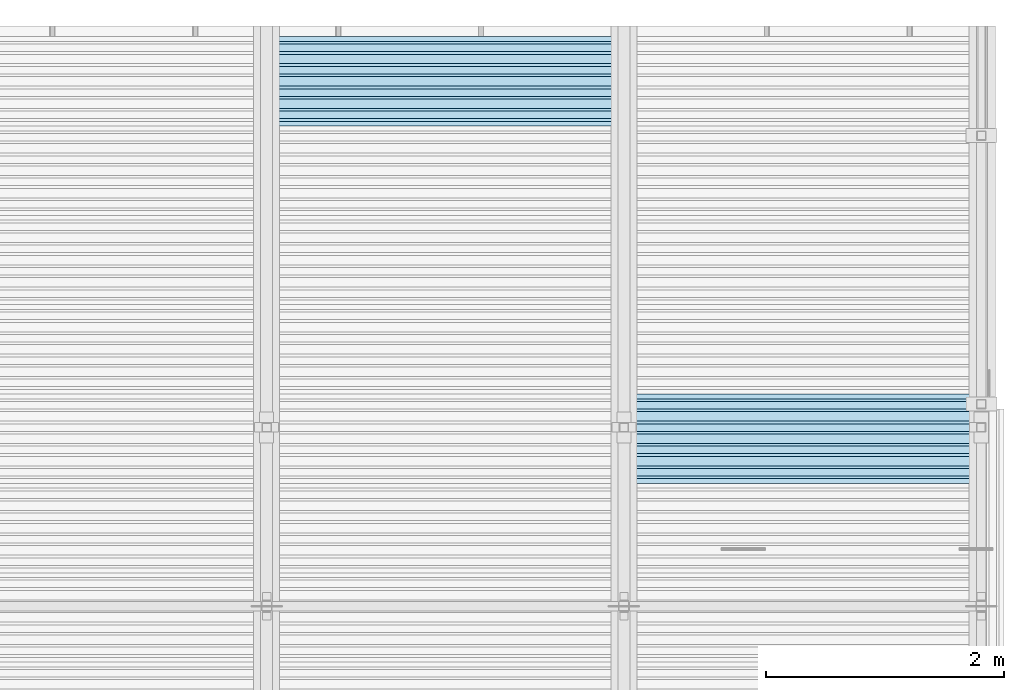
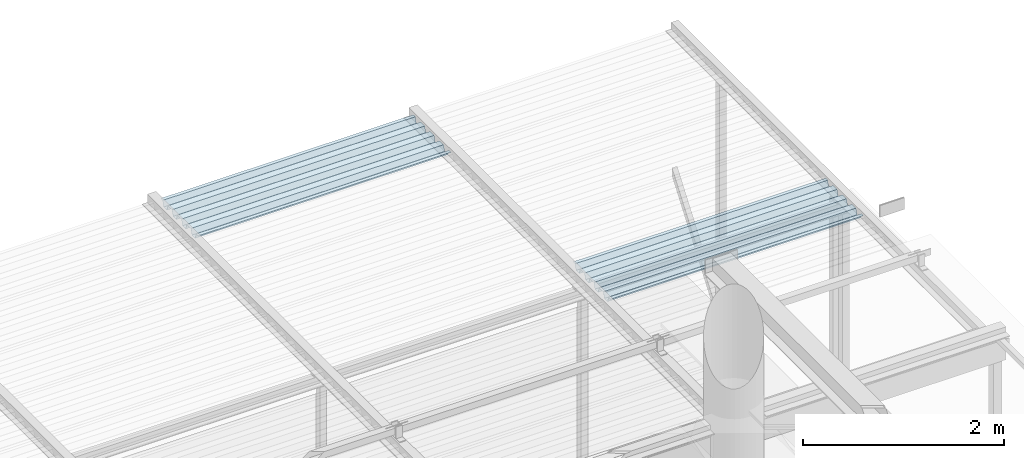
# One storey, part 95 of 98: 2 slabs.
"""IFC2X3 building model written with IfcOpenShell, lengths in millimetres."""

from ifc_helpers import new_model, entity, si_unit, converted_unit, derived_unit, direction, frame, origin_with_axes, place, context, subcontext, project, spatial, faceted_brep, material, type_object, element, save


model = new_model("IFC2X3")

# Units and contexts
model_context = context("Model", 3, precision=0.01, world=frame((0.0, 4.29681676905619e-09, 0.0)), true_north=direction((4.01073788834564e-13, 1.0)))
plan_context = context("Plan", 3, precision=0.01, world=frame((0.0, 4.29681676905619e-09, 0.0)), true_north=direction((4.01073788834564e-13, 1.0)))
body_context = subcontext(model_context, "Body", "Model", "MODEL_VIEW")
ifc_project = project(units=[converted_unit("PLANEANGLEUNIT", "DEGREE", entity("IfcPositiveLengthMeasure", 0.0174532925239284), si_unit("PLANEANGLEUNIT", "RADIAN"), dimensions=[0, 0, 0, 0, 0, 0, 0]), si_unit("AREAUNIT", "SQUARE_METRE"), si_unit("LENGTHUNIT", "METRE", prefix="MILLI"), si_unit("MASSUNIT", "GRAM", prefix="KILO"), si_unit("POWERUNIT", "WATT"), si_unit("PRESSUREUNIT", "PASCAL"), si_unit("FORCEUNIT", "NEWTON", prefix="KILO"), si_unit("ELECTRICCURRENTUNIT", "AMPERE"), si_unit("THERMODYNAMICTEMPERATUREUNIT", "DEGREE_CELSIUS"), si_unit("TIMEUNIT", "SECOND"), si_unit("VOLUMEUNIT", "CUBIC_METRE"), derived_unit("LINEARVELOCITYUNIT", [(si_unit("LENGTHUNIT", "METRE"), 1), (si_unit("TIMEUNIT", "SECOND"), -1)]), derived_unit("VOLUMETRICFLOWRATEUNIT", [(si_unit("VOLUMEUNIT", "CUBIC_METRE"), 1), (si_unit("TIMEUNIT", "SECOND"), -1)]), derived_unit("THERMALTRANSMITTANCEUNIT", [(si_unit("POWERUNIT", "WATT"), 1), (si_unit("THERMODYNAMICTEMPERATUREUNIT", "KELVIN"), -1), (si_unit("AREAUNIT", "SQUARE_METRE"), -1)])], contexts=[model_context, plan_context])

# Site, building, storey
site_placement = place(None, frame((0.0, -4.29681676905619e-09, 0.0), z_axis=(0.0, 0.0, 1.0), x_axis=(1.0, 0.0, 0.0)))
site = spatial("IfcSite", under=ifc_project, at=site_placement, Name="Gardermoen", CompositionType="ELEMENT")
building_placement = place(site_placement, frame((0.0, 4.29681676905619e-09, 0.0), z_axis=(0.0, 0.0, 1.0), x_axis=(1.0, 0.0, 0.0)))
building = spatial("IfcBuilding", under=site, at=building_placement, Name="TS", CompositionType="ELEMENT")
storey_placement = place(building_placement, origin_with_axes())
storey = spatial("IfcBuildingStorey", under=building, at=storey_placement, Name="D", CompositionType="ELEMENT", Elevation=0.0)

# Slabs
ifc_material = material(Name="STEEL/S355")
slab_type = type_object("IfcSlabType", Name="PLANJA70", PredefinedType="NOTDEFINED")
slab_1_placement = place(storey_placement, frame((528950.000000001, 420404.996695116, 206958.849718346), z_axis=(0.0, 0.0, 1.0), x_axis=(-0.999999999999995, -9.99999902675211e-08, 0.0)))
element("IfcSlab", 1, at=slab_1_placement, inside=storey, type_object=slab_type, material=ifc_material, Name="STÅLTAK", ObjectType="PLANJA70", PredefinedType="FLOOR", context=body_context, shape_type="Brep", body=[
    faceted_brep([(0.0, 375.0, 34.1500015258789), (0.0, 335.299987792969, 34.1500015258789), (2900.00079747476, 335.299987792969, 34.1500015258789), (2900.00079747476, 375.0, 34.1500015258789), (0.0, 313.010681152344, -32.1500015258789), (2900.00079747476, 313.010681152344, -32.1500015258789), (0.0, 249.489303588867, -32.1500015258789), (2900.00079747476, 249.489303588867, -32.1500015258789), (0.0, 227.199996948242, 34.1500015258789), (2900.00079747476, 227.199996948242, 34.1500015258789), (0.0, 147.800003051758, 34.1500015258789), (2900.00079747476, 147.800003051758, 34.1500015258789), (0.0, 125.280120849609, -33.1500015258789), (2900.00079747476, 125.280120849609, -33.1500015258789), (0.0, 62.2198791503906, -33.1500015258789), (2900.00079747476, 62.2198791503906, -33.1500015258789), (0.0, 39.7000007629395, 34.1500015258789), (2900.00079747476, 39.7000007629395, 34.1500015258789), (0.0, -39.7000007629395, 34.1500015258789), (2900.00079747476, -39.7000007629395, 34.1500015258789), (0.0, -62.2198791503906, -33.1500015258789), (2900.00079747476, -62.2198791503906, -33.1500015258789), (0.0, -125.280120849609, -33.1500015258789), (2900.00079747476, -125.280120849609, -33.1500015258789), (0.0, -147.800003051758, 34.1500015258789), (2900.00079747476, -147.800003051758, 34.1500015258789), (0.0, -227.199996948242, 34.1500015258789), (2900.00079747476, -227.199996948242, 34.1500015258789), (0.0, -249.719879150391, -33.1500015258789), (2900.00079747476, -249.719879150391, -33.1500015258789), (0.0, -312.781188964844, -33.1500015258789), (2900.00079747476, -312.781188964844, -33.1500015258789), (0.0, -335.070495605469, 33.1500015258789), (2900.00079747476, -335.070495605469, 33.1500015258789), (0.0, -375.0, 33.1500015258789), (2900.00079747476, -375.0, 33.1500015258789), (0.0, -375.0, 32.1500015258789), (2900.00079747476, -375.0, 32.1500015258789), (0.0, -335.789306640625, 32.1500015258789), (2900.00079747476, -335.789306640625, 32.1500015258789), (0.0, -313.5, -34.1500015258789), (2900.00079747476, -313.5, -34.1500015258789), (0.0, -249.0, -34.1500015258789), (2900.00079747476, -249.0, -34.1500015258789), (0.0, -226.480117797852, 33.1500015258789), (2900.00079747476, -226.480117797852, 33.1500015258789), (0.0, -148.519882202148, 33.1500015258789), (2900.00079747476, -148.519882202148, 33.1500015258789), (0.0, -126.0, -34.1500015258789), (2900.00079747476, -126.0, -34.1500015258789), (0.0, -61.5, -34.1500015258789), (2900.00079747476, -61.5, -34.1500015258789), (0.0, -38.9801177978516, 33.1500015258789), (2900.00079747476, -38.9801177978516, 33.1500015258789), (0.0, 38.9801177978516, 33.1500015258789), (2900.00079747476, 38.9801177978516, 33.1500015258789), (0.0, 61.5, -34.1500015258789), (2900.00079747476, 61.5, -34.1500015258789), (0.0, 126.0, -34.1500015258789), (2900.00079747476, 126.0, -34.1500015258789), (0.0, 148.519882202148, 33.1500015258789), (2900.00079747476, 148.519882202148, 33.1500015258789), (0.0, 226.481185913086, 33.1500015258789), (2900.00079747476, 226.481185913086, 33.1500015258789), (0.0, 248.770492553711, -33.1500015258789), (2900.00079747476, 248.770492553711, -33.1500015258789), (0.0, 313.7294921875, -33.1500015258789), (2900.00079747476, 313.7294921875, -33.1500015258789), (0.0, 336.018798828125, 33.1500015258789), (2900.00079747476, 336.018798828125, 33.1500015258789), (0.0, 375.0, 33.1500015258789), (2900.00079747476, 375.0, 33.1500015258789)], [[[0, 1, 2, 3]], [[1, 4, 5, 2]], [[4, 6, 7, 5]], [[6, 8, 9, 7]], [[8, 10, 11, 9]], [[10, 12, 13, 11]], [[12, 14, 15, 13]], [[14, 16, 17, 15]], [[16, 18, 19, 17]], [[18, 20, 21, 19]], [[22, 23, 21, 20]], [[22, 24, 25, 23]], [[24, 26, 27, 25]], [[26, 28, 29, 27]], [[28, 30, 31, 29]], [[30, 32, 33, 31]], [[32, 34, 35, 33]], [[34, 36, 37, 35]], [[36, 38, 39, 37]], [[38, 40, 41, 39]], [[40, 42, 43, 41]], [[42, 44, 45, 43]], [[44, 46, 47, 45]], [[46, 48, 49, 47]], [[48, 50, 51, 49]], [[50, 52, 53, 51]], [[52, 54, 55, 53]], [[54, 56, 57, 55]], [[56, 58, 59, 57]], [[58, 60, 61, 59]], [[60, 62, 63, 61]], [[62, 64, 65, 63]], [[64, 66, 67, 65]], [[66, 68, 69, 67]], [[68, 70, 71, 69]], [[70, 0, 3, 71]], [[5, 7, 9, 11, 13, 15, 17, 19, 21, 23, 25, 27, 29, 31, 33, 35, 37, 39, 41, 43, 45, 47, 49, 51, 53, 55, 57, 59, 61, 63, 65, 67, 69, 71, 3, 2]], [[70, 68, 66, 64, 62, 60, 58, 56, 54, 52, 50, 48, 46, 44, 42, 40, 38, 36, 34, 32, 30, 28, 26, 24, 22, 20, 18, 16, 14, 12, 10, 8, 6, 4, 1, 0]]]),
])
slab_2_placement = place(storey_placement, frame((531950.000000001, 417404.996695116, 206958.849718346), z_axis=(0.0, 0.0, 1.0), x_axis=(-0.999999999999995, -9.99999902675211e-08, 0.0)))
element("IfcSlab", 2, at=slab_2_placement, inside=storey, type_object=slab_type, material=ifc_material, Name="STÅLTAK", ObjectType="PLANJA70", PredefinedType="FLOOR", context=body_context, shape_type="Brep", body=[
    faceted_brep([(0.0, 375.0, 34.1500015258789), (0.0, 335.299987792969, 34.1500015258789), (2900.00079747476, 335.299987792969, 34.1500015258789), (2900.00079747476, 375.0, 34.1500015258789), (0.0, 313.010681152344, -32.1500015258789), (2900.00079747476, 313.010681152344, -32.1500015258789), (0.0, 249.489303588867, -32.1500015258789), (2900.00079747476, 249.489303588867, -32.1500015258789), (0.0, 227.199996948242, 34.1500015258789), (2900.00079747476, 227.199996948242, 34.1500015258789), (0.0, 147.800003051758, 34.1500015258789), (2900.00079747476, 147.800003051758, 34.1500015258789), (0.0, 125.280120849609, -33.1500015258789), (2900.00079747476, 125.280120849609, -33.1500015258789), (0.0, 62.2198791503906, -33.1500015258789), (2900.00079747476, 62.2198791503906, -33.1500015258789), (0.0, 39.7000007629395, 34.1500015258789), (2900.00079747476, 39.7000007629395, 34.1500015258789), (0.0, -39.7000007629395, 34.1500015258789), (2900.00079747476, -39.7000007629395, 34.1500015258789), (0.0, -62.2198791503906, -33.1500015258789), (2900.00079747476, -62.2198791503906, -33.1500015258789), (0.0, -125.280120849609, -33.1500015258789), (2900.00079747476, -125.280120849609, -33.1500015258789), (0.0, -147.800003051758, 34.1500015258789), (2900.00079747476, -147.800003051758, 34.1500015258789), (0.0, -227.199996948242, 34.1500015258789), (2900.00079747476, -227.199996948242, 34.1500015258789), (0.0, -249.719879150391, -33.1500015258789), (2900.00079747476, -249.719879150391, -33.1500015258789), (0.0, -312.781188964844, -33.1500015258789), (2900.00079747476, -312.781188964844, -33.1500015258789), (0.0, -335.070495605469, 33.1500015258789), (2900.00079747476, -335.070495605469, 33.1500015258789), (0.0, -375.0, 33.1500015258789), (2900.00079747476, -375.0, 33.1500015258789), (0.0, -375.0, 32.1500015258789), (2900.00079747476, -375.0, 32.1500015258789), (0.0, -335.789306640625, 32.1500015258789), (2900.00079747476, -335.789306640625, 32.1500015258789), (0.0, -313.5, -34.1500015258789), (2900.00079747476, -313.5, -34.1500015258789), (0.0, -249.0, -34.1500015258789), (2900.00079747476, -249.0, -34.1500015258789), (0.0, -226.480117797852, 33.1500015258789), (2900.00079747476, -226.480117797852, 33.1500015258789), (0.0, -148.519882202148, 33.1500015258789), (2900.00079747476, -148.519882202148, 33.1500015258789), (0.0, -126.0, -34.1500015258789), (2900.00079747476, -126.0, -34.1500015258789), (0.0, -61.5, -34.1500015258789), (2900.00079747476, -61.5, -34.1500015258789), (0.0, -38.9801177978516, 33.1500015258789), (2900.00079747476, -38.9801177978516, 33.1500015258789), (0.0, 38.9801177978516, 33.1500015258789), (2900.00079747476, 38.9801177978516, 33.1500015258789), (0.0, 61.5, -34.1500015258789), (2900.00079747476, 61.5, -34.1500015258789), (0.0, 126.0, -34.1500015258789), (2900.00079747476, 126.0, -34.1500015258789), (0.0, 148.519882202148, 33.1500015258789), (2900.00079747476, 148.519882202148, 33.1500015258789), (0.0, 226.481185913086, 33.1500015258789), (2900.00079747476, 226.481185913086, 33.1500015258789), (0.0, 248.770492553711, -33.1500015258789), (2900.00079747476, 248.770492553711, -33.1500015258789), (0.0, 313.7294921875, -33.1500015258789), (2900.00079747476, 313.7294921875, -33.1500015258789), (0.0, 336.018798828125, 33.1500015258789), (2900.00079747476, 336.018798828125, 33.1500015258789), (0.0, 375.0, 33.1500015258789), (2900.00079747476, 375.0, 33.1500015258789)], [[[0, 1, 2, 3]], [[1, 4, 5, 2]], [[4, 6, 7, 5]], [[6, 8, 9, 7]], [[8, 10, 11, 9]], [[10, 12, 13, 11]], [[12, 14, 15, 13]], [[14, 16, 17, 15]], [[16, 18, 19, 17]], [[18, 20, 21, 19]], [[22, 23, 21, 20]], [[22, 24, 25, 23]], [[24, 26, 27, 25]], [[26, 28, 29, 27]], [[28, 30, 31, 29]], [[30, 32, 33, 31]], [[32, 34, 35, 33]], [[34, 36, 37, 35]], [[36, 38, 39, 37]], [[38, 40, 41, 39]], [[40, 42, 43, 41]], [[42, 44, 45, 43]], [[44, 46, 47, 45]], [[46, 48, 49, 47]], [[48, 50, 51, 49]], [[50, 52, 53, 51]], [[52, 54, 55, 53]], [[54, 56, 57, 55]], [[56, 58, 59, 57]], [[58, 60, 61, 59]], [[60, 62, 63, 61]], [[62, 64, 65, 63]], [[64, 66, 67, 65]], [[66, 68, 69, 67]], [[68, 70, 71, 69]], [[70, 0, 3, 71]], [[5, 7, 9, 11, 13, 15, 17, 19, 21, 23, 25, 27, 29, 31, 33, 35, 37, 39, 41, 43, 45, 47, 49, 51, 53, 55, 57, 59, 61, 63, 65, 67, 69, 71, 3, 2]], [[70, 68, 66, 64, 62, 60, 58, 56, 54, 52, 50, 48, 46, 44, 42, 40, 38, 36, 34, 32, 30, 28, 26, 24, 22, 20, 18, 16, 14, 12, 10, 8, 6, 4, 1, 0]]]),
])

save(model, "model.ifc")
